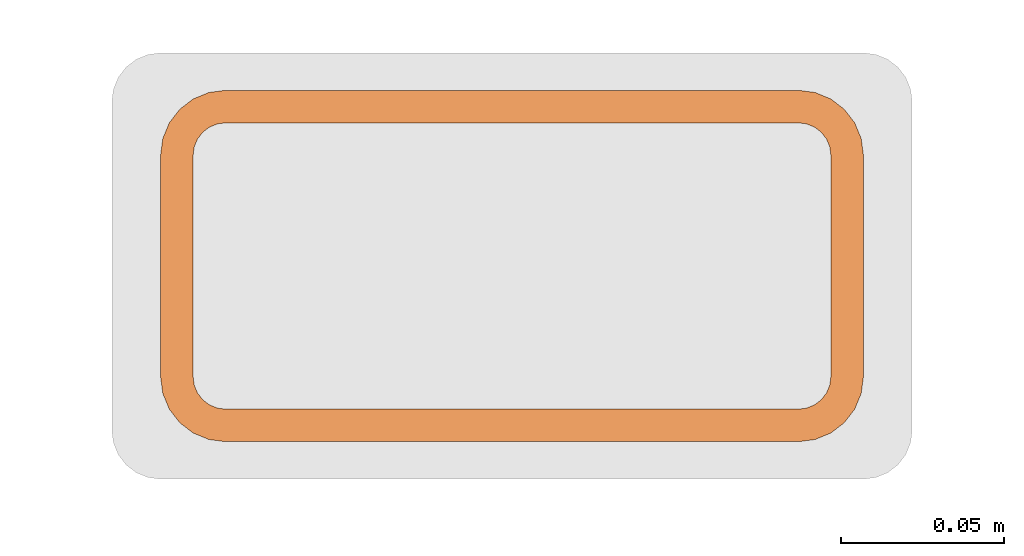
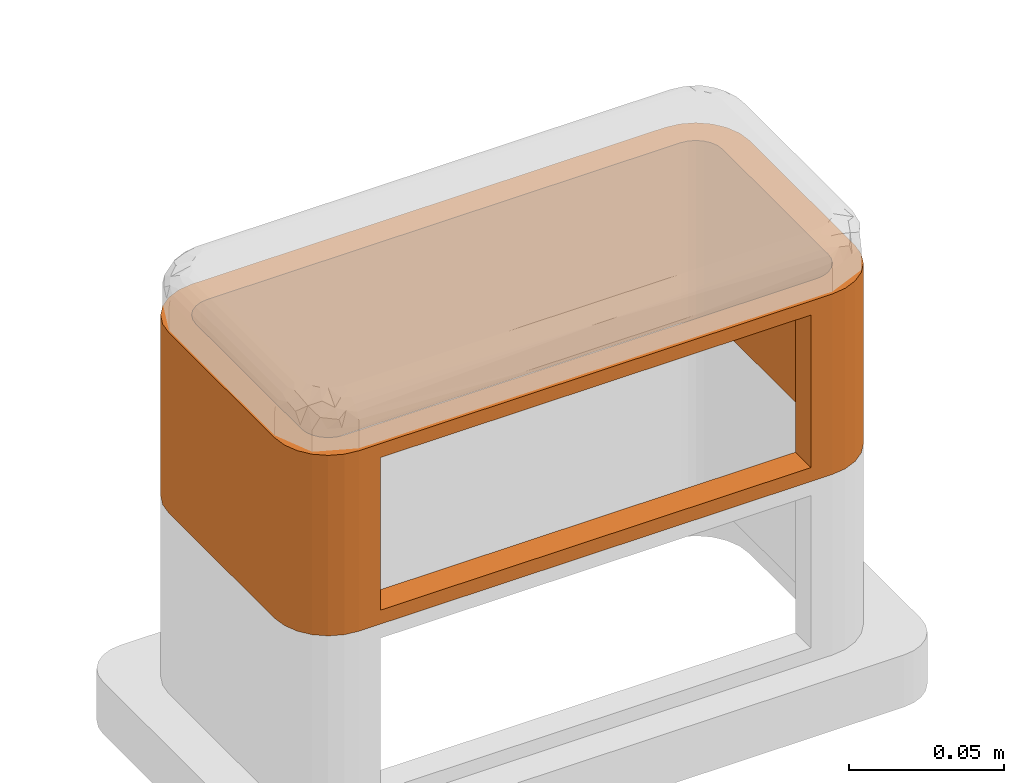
# One storey, part 77 of 87: 1 proxy.
"""IFC2X3 building model written with IfcOpenShell, lengths in millimetres."""

from ifc_helpers import new_model, entity, si_unit, converted_unit, derived_unit, direction, frame, origin, place, context, subcontext, project, spatial, faceted_brep, source, transform, mapped, material, type_object, type_shapes, element, save


model = new_model("IFC2X3")

# Units and contexts
model_context = context("Model", 3, precision=0.01, world=origin(), true_north=direction((6.12303176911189e-17, 1.0)))
body_context = subcontext(model_context, "Body", "Model", "MODEL_VIEW")
ifc_project = project(units=[si_unit("LENGTHUNIT", "METRE", prefix="MILLI"), si_unit("AREAUNIT", "SQUARE_METRE"), si_unit("VOLUMEUNIT", "CUBIC_METRE"), converted_unit("PLANEANGLEUNIT", "DEGREE", entity("IfcRatioMeasure", 0.0174532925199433), si_unit("PLANEANGLEUNIT", "RADIAN"), dimensions=[0, 0, 0, 0, 0, 0, 0]), si_unit("MASSUNIT", "GRAM", prefix="KILO"), derived_unit("MASSDENSITYUNIT", [(si_unit("MASSUNIT", "GRAM", prefix="KILO"), 1), (si_unit("LENGTHUNIT", "METRE"), -3)]), si_unit("TIMEUNIT", "SECOND"), si_unit("FREQUENCYUNIT", "HERTZ"), si_unit("THERMODYNAMICTEMPERATUREUNIT", "DEGREE_CELSIUS"), derived_unit("THERMALTRANSMITTANCEUNIT", [(si_unit("MASSUNIT", "GRAM", prefix="KILO"), 1), (si_unit("THERMODYNAMICTEMPERATUREUNIT", "KELVIN"), -1), (si_unit("TIMEUNIT", "SECOND"), -3)]), derived_unit("VOLUMETRICFLOWRATEUNIT", [(si_unit("LENGTHUNIT", "METRE"), 3), (si_unit("TIMEUNIT", "SECOND"), -1)]), si_unit("ELECTRICCURRENTUNIT", "AMPERE"), si_unit("ELECTRICVOLTAGEUNIT", "VOLT"), si_unit("POWERUNIT", "WATT"), si_unit("FORCEUNIT", "NEWTON", prefix="KILO"), si_unit("ILLUMINANCEUNIT", "LUX"), si_unit("LUMINOUSFLUXUNIT", "LUMEN"), si_unit("LUMINOUSINTENSITYUNIT", "CANDELA"), derived_unit("USERDEFINED", [(si_unit("MASSUNIT", "GRAM", prefix="KILO"), -1), (si_unit("LENGTHUNIT", "METRE"), -2), (si_unit("TIMEUNIT", "SECOND"), 3), (si_unit("LUMINOUSFLUXUNIT", "LUMEN"), 1)]), derived_unit("LINEARVELOCITYUNIT", [(si_unit("LENGTHUNIT", "METRE"), 1), (si_unit("TIMEUNIT", "SECOND"), -1)]), si_unit("PRESSUREUNIT", "PASCAL"), derived_unit("USERDEFINED", [(si_unit("LENGTHUNIT", "METRE"), -2), (si_unit("MASSUNIT", "GRAM", prefix="KILO"), 1), (si_unit("TIMEUNIT", "SECOND"), -2)])], contexts=[model_context])

# Site, building, storey
site_placement = place(None, origin())
site = spatial("IfcSite", under=ifc_project, at=site_placement, Name="Default", CompositionType="ELEMENT")
building_placement = place(site_placement, origin())
building = spatial("IfcBuilding", under=site, at=building_placement, Name="Наименование здания", CompositionType="ELEMENT")
storey_placement = place(building_placement, origin())
storey = spatial("IfcBuildingStorey", under=building, at=storey_placement, Name="Этаж 01", CompositionType="ELEMENT", Elevation=0.0)

# Proxy
ifc_material = material(Name="DKC_Пластик_Белый")
building_element_proxy_type = type_object("IfcBuildingElementProxyType", Name="Вертикальное расширение напольной башенки BUS", PredefinedType="NOTDEFINED", material=ifc_material)
shared_shape = source(origin(), body_context, "Body", "Brep", [
    faceted_brep([(96.660254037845, 39.0, 71.0), (97.6592582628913, 36.5881904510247, 71.0), (105.320508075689, 44.0, 71.0), (102.142135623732, 48.1421356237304, 71.0), (95.0710678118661, 41.071067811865, 71.0), (107.318516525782, 39.1763809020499, 71.0), (108.0, 34.0, 71.0), (98.0, 34.0, 71.0), (98.0, -34.0, 71.0), (108.0, -34.0, 71.0), (97.6592582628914, -36.5881904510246, 71.0), (107.318516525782, -39.17638090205, 71.0), (105.320508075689, -44.0, 71.0), (96.6602540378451, -39.0, 71.0), (102.142135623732, -48.1421356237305, 71.0), (95.0710678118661, -41.0710678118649, 71.0), (98.0, -51.3205080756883, 71.0), (93.0, -42.6602540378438, 71.0), (93.1763809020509, -53.3185165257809, 71.0), (90.5881904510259, -43.6592582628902, 71.0), (88.0, -54.0, 71.0), (88.0, -44.0, 71.0), (-88.0, -54.0, 71.0), (-88.0, -44.0, 71.0), (-90.5881904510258, -43.6592582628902, 71.0), (-93.1763809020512, -53.3185165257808, 71.0), (-93.0, -42.6602540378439, 71.0), (-98.0, -51.3205080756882, 71.0), (-95.0710678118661, -41.071067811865, 71.0), (-102.142135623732, -48.1421356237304, 71.0), (-96.660254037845, -39.0, 71.0), (-105.320508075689, -44.0, 71.0), (-97.6592582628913, -36.5881904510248, 71.0), (-107.318516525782, -39.1763809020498, 71.0), (-108.0, -34.0, 71.0), (-98.0, -34.0, 71.0), (-108.0, 34.0, 71.0), (-98.0, 34.0, 71.0), (-97.6592582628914, 36.5881904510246, 71.0), (-107.318516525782, 39.1763809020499, 71.0), (-105.320508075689, 44.0, 71.0), (-96.6602540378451, 39.0, 71.0), (-102.142135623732, 48.1421356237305, 71.0), (-95.0710678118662, 41.0710678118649, 71.0), (-98.0, 51.3205080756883, 71.0), (-93.0, 42.6602540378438, 71.0), (-93.176380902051, 53.3185165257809, 71.0), (-90.5881904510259, 43.6592582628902, 71.0), (-88.0, 54.0, 71.0), (-88.0, 44.0, 71.0), (88.0, 44.0, 71.0), (88.0, 54.0, 71.0), (90.5881904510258, 43.6592582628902, 71.0), (93.1763809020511, 53.3185165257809, 71.0), (93.0, 42.6602540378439, 71.0), (98.0, 51.3205080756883, 71.0), (-96.6602540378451, 39.0, 0.0), (-97.6592582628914, 36.5881904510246, 0.0), (-105.320508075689, 44.0, 0.0), (-102.142135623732, 48.1421356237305, 0.0), (-95.0710678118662, 41.0710678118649, 0.0), (-107.318516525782, 39.1763809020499, 0.0), (-108.0, 34.0, 0.0), (-98.0, 34.0, 0.0), (-98.0, -34.0, 0.0), (-108.0, -34.0, 0.0), (-97.6592582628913, -36.5881904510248, 0.0), (-107.318516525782, -39.1763809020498, 0.0), (-105.320508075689, -44.0, 0.0), (-96.660254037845, -39.0, 0.0), (-102.142135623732, -48.1421356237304, 0.0), (-95.0710678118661, -41.071067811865, 0.0), (-98.0, -51.3205080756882, 0.0), (-93.0, -42.6602540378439, 0.0), (-93.1763809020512, -53.3185165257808, 0.0), (-90.5881904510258, -43.6592582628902, 0.0), (-88.0, -54.0, 0.0), (-88.0, -44.0, 0.0), (88.0, -54.0, 0.0), (88.0, -44.0, 0.0), (90.5881904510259, -43.6592582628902, 0.0), (93.1763809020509, -53.3185165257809, 0.0), (93.0, -42.6602540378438, 0.0), (98.0, -51.3205080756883, 0.0), (95.0710678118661, -41.0710678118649, 0.0), (102.142135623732, -48.1421356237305, 0.0), (96.6602540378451, -39.0, 0.0), (105.320508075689, -44.0, 0.0), (97.6592582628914, -36.5881904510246, 0.0), (107.318516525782, -39.17638090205, 0.0), (108.0, -34.0, 0.0), (98.0, -34.0, 0.0), (108.0, 34.0, 0.0), (98.0, 34.0, 0.0), (97.6592582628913, 36.5881904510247, 0.0), (107.318516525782, 39.1763809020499, 0.0), (105.320508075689, 44.0, 0.0), (96.660254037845, 39.0, 0.0), (102.142135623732, 48.1421356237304, 0.0), (95.0710678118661, 41.071067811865, 0.0), (98.0, 51.3205080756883, 0.0), (93.0, 42.6602540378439, 0.0), (93.1763809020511, 53.3185165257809, 0.0), (90.5881904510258, 43.6592582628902, 0.0), (88.0, 54.0, 0.0), (88.0, 44.0, 0.0), (-88.0, 44.0, 0.0), (-88.0, 54.0, 0.0), (-90.5881904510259, 43.6592582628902, 0.0), (-93.176380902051, 53.3185165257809, 0.0), (-93.0, 42.6602540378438, 0.0), (-98.0, 51.3205080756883, 0.0), (-80.0, -54.0, 65.5000000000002), (80.0, -54.0, 65.5000000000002), (-80.0, -54.0, 5.49999999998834), (80.0, -54.0, 5.49999999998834), (80.0, -44.0, 65.5000000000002), (-80.0, -44.0, 65.5000000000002), (80.0, -44.0, 5.49999999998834), (-80.0, -44.0, 5.49999999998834)], [[[0, 1, 2]], [[3, 0, 2]], [[0, 3, 4]], [[5, 2, 1]], [[6, 5, 1]], [[1, 7, 6]], [[6, 7, 8]], [[8, 9, 6]], [[9, 8, 10]], [[9, 10, 11]], [[11, 10, 12]], [[13, 12, 10]], [[14, 12, 13]], [[15, 14, 13]], [[14, 15, 16]], [[17, 16, 15]], [[17, 18, 16]], [[19, 18, 17]], [[18, 19, 20]], [[21, 20, 19]], [[20, 21, 22]], [[23, 22, 21]], [[22, 23, 24]], [[24, 25, 22]], [[25, 24, 26]], [[25, 26, 27]], [[27, 26, 28]], [[28, 29, 27]], [[28, 30, 29]], [[29, 30, 31]], [[30, 32, 31]], [[33, 31, 32]], [[32, 34, 33]], [[32, 35, 34]], [[34, 35, 36]], [[37, 36, 35]], [[37, 38, 36]], [[39, 36, 38]], [[38, 40, 39]], [[41, 40, 38]], [[42, 40, 41]], [[42, 41, 43]], [[42, 43, 44]], [[43, 45, 44]], [[44, 45, 46]], [[45, 47, 46]], [[47, 48, 46]], [[47, 49, 48]], [[48, 49, 50]], [[50, 51, 48]], [[52, 51, 50]], [[52, 53, 51]], [[52, 54, 53]], [[55, 54, 4]], [[55, 53, 54]], [[3, 55, 4]], [[56, 57, 58]], [[59, 56, 58]], [[56, 59, 60]], [[61, 58, 57]], [[62, 61, 57]], [[57, 63, 62]], [[62, 63, 64]], [[64, 65, 62]], [[65, 64, 66]], [[65, 66, 67]], [[67, 66, 68]], [[69, 68, 66]], [[70, 68, 69]], [[71, 70, 69]], [[70, 71, 72]], [[73, 72, 71]], [[73, 74, 72]], [[75, 74, 73]], [[74, 75, 76]], [[77, 76, 75]], [[76, 77, 78]], [[79, 78, 77]], [[78, 79, 80]], [[80, 81, 78]], [[81, 80, 82]], [[81, 82, 83]], [[83, 82, 84]], [[84, 85, 83]], [[84, 86, 85]], [[85, 86, 87]], [[86, 88, 87]], [[89, 87, 88]], [[88, 90, 89]], [[88, 91, 90]], [[90, 91, 92]], [[93, 92, 91]], [[93, 94, 92]], [[95, 92, 94]], [[94, 96, 95]], [[97, 96, 94]], [[98, 96, 97]], [[98, 97, 99]], [[98, 99, 100]], [[99, 101, 100]], [[100, 101, 102]], [[101, 103, 102]], [[103, 104, 102]], [[103, 105, 104]], [[104, 105, 106]], [[106, 107, 104]], [[108, 107, 106]], [[108, 109, 107]], [[108, 110, 109]], [[111, 110, 60]], [[111, 109, 110]], [[59, 111, 60]], [[48, 51, 104, 107]], [[46, 109, 111, 44]], [[44, 111, 59, 42]], [[107, 109, 46, 48]], [[40, 58, 61, 39]], [[39, 61, 62, 36]], [[42, 59, 58, 40]], [[34, 36, 62, 65]], [[33, 67, 68, 31]], [[31, 68, 70, 29]], [[65, 67, 33, 34]], [[27, 72, 74, 25]], [[25, 74, 76, 22]], [[29, 70, 72, 27]], [[22, 112, 113]], [[112, 22, 114]], [[113, 20, 22]], [[76, 114, 22]], [[114, 76, 115]], [[78, 115, 76]], [[115, 78, 20]], [[20, 113, 115]], [[18, 81, 83, 16]], [[16, 83, 85, 14]], [[78, 81, 18, 20]], [[12, 87, 89, 11]], [[11, 89, 90, 9]], [[14, 85, 87, 12]], [[6, 9, 90, 92]], [[96, 98, 3, 2]], [[6, 92, 95, 5]], [[95, 96, 2, 5]], [[55, 100, 102, 53]], [[53, 102, 104, 51]], [[3, 98, 100, 55]], [[52, 50, 105, 103]], [[54, 52, 103, 101]], [[99, 4, 54, 101]], [[94, 93, 7, 1]], [[94, 1, 0, 97]], [[97, 0, 4, 99]], [[8, 7, 93, 91]], [[10, 8, 91, 88]], [[13, 10, 88, 86]], [[84, 15, 13, 86]], [[79, 21, 19, 80]], [[80, 19, 17, 82]], [[82, 17, 15, 84]], [[21, 116, 117]], [[116, 21, 118]], [[117, 23, 21]], [[79, 118, 21]], [[118, 79, 119]], [[77, 119, 79]], [[119, 77, 23]], [[23, 117, 119]], [[75, 73, 26, 24]], [[77, 75, 24, 23]], [[71, 28, 26, 73]], [[64, 35, 32, 66]], [[69, 66, 32, 30]], [[69, 30, 28, 71]], [[37, 35, 64, 63]], [[57, 56, 41, 38]], [[63, 57, 38, 37]], [[60, 43, 41, 56]], [[108, 106, 49, 47]], [[110, 108, 47, 45]], [[110, 45, 43, 60]], [[50, 49, 106, 105]], [[116, 113, 112, 117]], [[117, 112, 114, 119]], [[118, 119, 114, 115]], [[118, 115, 113, 116]]]),
])
type_shapes(building_element_proxy_type, [shared_shape])
proxy_placement = place(storey_placement, frame((26681.304557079, 1040.0571724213, 91.5000000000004)))
element("IfcBuildingElementProxy", 1, at=proxy_placement, inside=storey, type_object=building_element_proxy_type, material=ifc_material, Name="Вертикальное расширение напольной башенки BUS:Вертикальное расширение напольной башенки BUS", ObjectType="Вертикальное расширение напольной башенки BUS", context=body_context, shape_type="MappedRepresentation", body=[
    mapped(shared_shape, transform((0.0, 0.0, 0.0), scale=1.0)),
])

save(model, "model.ifc")
